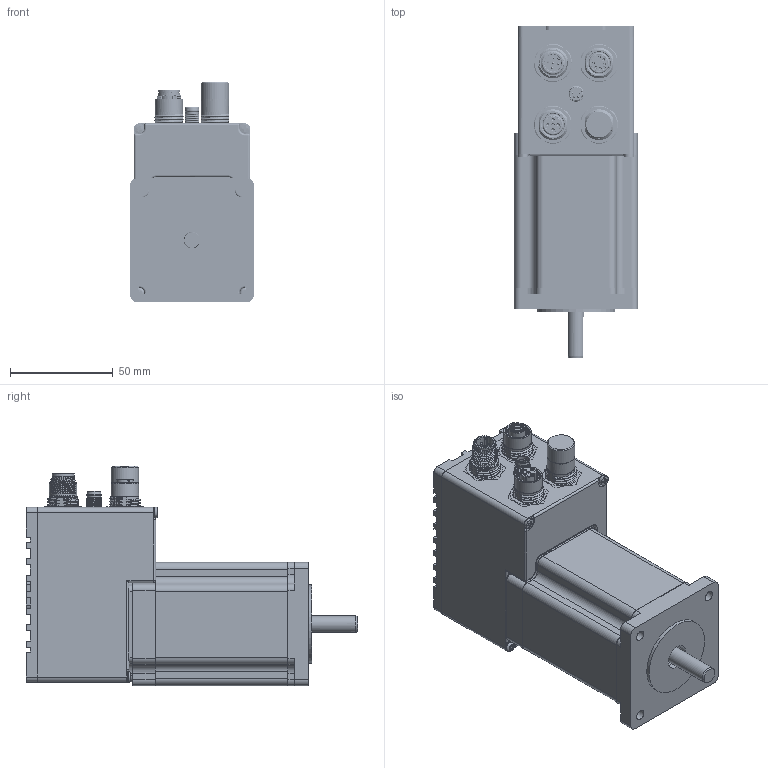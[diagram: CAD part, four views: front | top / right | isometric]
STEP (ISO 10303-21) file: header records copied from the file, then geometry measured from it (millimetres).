
FILE_DESCRIPTION(/* description */ ('Unknown'),/* implementation_level */ '2;1');
FILE_NAME(/* name */ 'SM4D260PE272DM0',/* time_stamp */ '2021-08-31T11:24:17+02:00',/* author */ ('Unknown'),/* organization */ ('Unknown'),/* preprocessor_version */ 'ST-DEVELOPER v16.7',/* originating_system */ 'Solid Edge',/* authorisation */ 'Unknown');
FILE_SCHEMA (('AUTOMOTIVE_DESIGN {1 0 10303 214 3 1 1}'));
Products named in the file (25): SM4D2 con IMD12; dissipatore_imd12_2prot; scatola_sm4d2xx_imd12_2prot; imd12_guarnizione_dissipatore; mica_imd12; hexdist_MF_M2e5 x 12mm; tcc_M2e5x05; tcc_M3x08; imd12_piana_motore; MSDS-04PFFP-SF8001-STP; 8-04pmms-sf7001; 8-04PMMS-SF7001; M12A-05PMMS-SF8001-STP; M12A-08PFFS-SF8001-STP; tcc_M2e5x60; TAPPO_M12; tcc_M2e5x47; MT24HE35042A4Z1; MT24HE35042A4Z1_ASM_1_ASM; MT24HE35042A4LC_ASM_1_ASM_1_ASM; ASM0001_ASM_1_ASM_1_ASM_1_ASM; STATOR_1_1_1; NEMA24STANDARDENDBELL1_1_1_1; NEMA24STANDARDENDBELL2_1_1_1; SHAFT-1_1_1_1
Assembly tree (36 placements, depth 6):
  SM4D2 con IMD12
    dissipatore_imd12_2prot
    scatola_sm4d2xx_imd12_2prot
    imd12_guarnizione_dissipatore
    mica_imd12  x2
    hexdist_MF_M2e5 x 12mm  x3
    tcc_M2e5x05  x4
    tcc_M3x08  x4
    imd12_piana_motore
    MSDS-04PFFP-SF8001-STP  x2
    8-04pmms-sf7001
      8-04PMMS-SF7001
    M12A-05PMMS-SF8001-STP
    M12A-08PFFS-SF8001-STP
    tcc_M2e5x60  x2
    TAPPO_M12
    tcc_M2e5x47  x2
    MT24HE35042A4Z1
      MT24HE35042A4Z1_ASM_1_ASM
        MT24HE35042A4LC_ASM_1_ASM_1_ASM
          ASM0001_ASM_1_ASM_1_ASM_1_ASM
            STATOR_1_1_1
            NEMA24STANDARDENDBELL1_1_1_1
            NEMA24STANDARDENDBELL2_1_1_1
            SHAFT-1_1_1_1
Bounding box: 60 x 161.28 x 106.8 mm (x, y, z)
Volume: 212927.3 mm3; surface area: 155224 mm2
Topology: 34 solids, 39 shells, 4144 faces, 11233 edges, 7443 vertices
Faces by surface type: plane 1987, cylinder 1031, bspline 777, cone 240, torus 60, sphere 49
Full cylindrical faces by diameter (mm): 0.8 x20, 1 x24, 1.05 x8, 1.2 x12, 1.25 x8, 1.4 x4, 1.42 x8, 1.45 x5, 1.5 x12, 1.55 x16, 1.6 x8, 1.62 x8, 1.78 x8, 2 x2, 2.05 x4, 2.5 x22, 2.7 x4, 3 x16, 3.2 x8, 5 x13, 5.75 x3, 5.8 x1, 6 x4, 6.35 x1, 6.5 x1, 6.9 x1, 8 x1, 8.2 x3, 8.3 x1, 8.4 x1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
Entity records: 148496 total; most frequent: CARTESIAN_POINT 57107, ORIENTED_EDGE 17472, DIRECTION 13307, EDGE_CURVE 8740, VERTEX_POINT 5966, AXIS2_PLACEMENT_3D 4436, LINE 4435, VECTOR 4435
